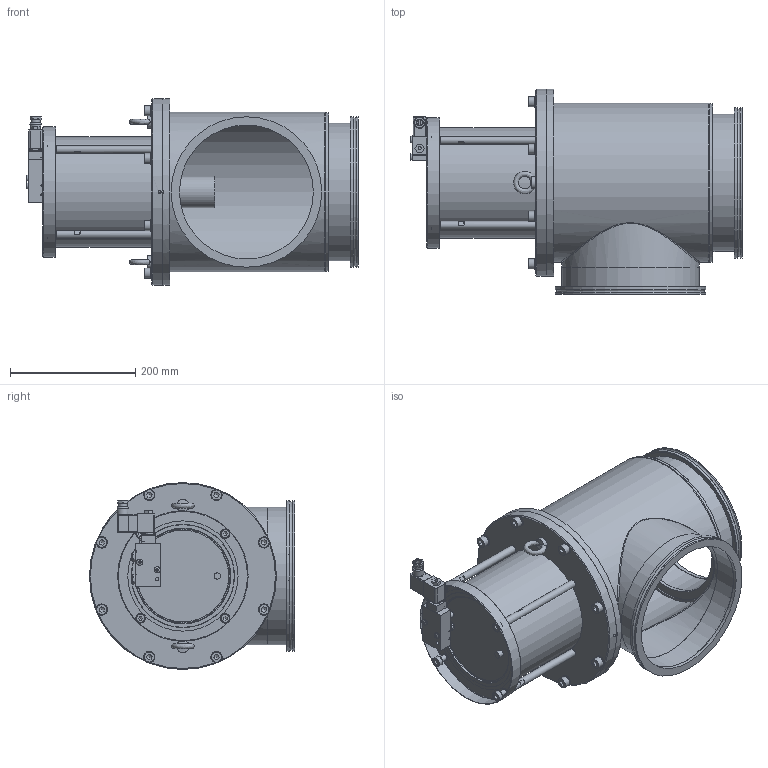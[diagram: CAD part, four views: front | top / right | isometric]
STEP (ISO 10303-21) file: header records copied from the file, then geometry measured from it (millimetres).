
FILE_DESCRIPTION(/* description */ (''),/* implementation_level */ '2;1');
FILE_NAME(/* name */ '1080236739_203.stp',/* time_stamp */ '2019-04-08T07:40:46+02:00',/* author */ (''),/* organization */ (''),/* preprocessor_version */ 'ST-DEVELOPER v16',/* originating_system */ 'SIEMENS PLM Software NX 11.0',/* authorisation */ '');
FILE_SCHEMA (('AP203_CONFIGURATION_CONTROLLED_3D_DESIGN_OF_MECHANICAL_PARTS_AND_ASSEMBLIES_MIM_LF { 1 0 10303 403 2 1 2}'));
Length unit declared in the file: millimetre
Products named in the file (27): 467863; 467864; n-7501-502_1; n-7501-502_2; 524275; 498864; 484239; 498875; 487799; 487825; 366217; n-6024-562; n-7100-016_4; 439305; 439333; 714792; n-6134-410; 218204.1; 224833.1; 377229; n-6033-003.1; n-8501-300_MODELNX-ARRAGMNTArrangement 1; n-7501-502_NX-ARRAGMNT0Â°; 80993-r1_MODELNX-ARRAGMNT0_Grad; 487828; 487835_MODEL; 791339
Assembly tree (53 placements, depth 4):
  791339
    n-6033-003.1  x2
    377229  x4
    224833.1  x4
    218204.1  x8
    n-6134-410  x8
    487835_MODEL
      487828
        487825
        487799
        498875
        484239
        498864
        524275  x2
    80993-r1_MODELNX-ARRAGMNT0_Grad
      n-7100-016_4  x2
      n-6024-562  x2
      n-7501-502_NX-ARRAGMNT0Â°
        n-7501-502_2
        n-7501-502_1
        n-6024-562  x2
      366217  x2
      n-8501-300_MODELNX-ARRAGMNTArrangement 1
        467864
        467863
    714792
    439333
    439305
Bounding box: 529.54 x 327 x 298 mm (x, y, z)
Volume: 4103093.2 mm3; surface area: 1231800.7 mm2
Topology: 72 solids, 72 shells, 1071 faces, 2373 edges, 1538 vertices
Faces by surface type: plane 614, cylinder 268, cone 89, torus 46, extrusion 32, sphere 12, bspline 10
Full cylindrical faces by diameter (mm): 2.7 x1, 3 x1, 4 x2, 4.2 x2, 4.4 x2, 4.9 x1, 5 x5, 5.5 x3, 6 x2, 6.5 x2, 6.66 x4, 6.7 x4, 6.8 x6, 7.7 x4, 7.78 x1, 8 x10, 8.36 x8, 8.4 x8, 8.5 x12, 8.566 x2, 9 x5, 9.728 x5, 10 x25, 10.15 x5, 10.3 x1, 10.5 x8, 11 x8, 12 x4, 13 x4, 13.85 x2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
Entity records: 27302 total; most frequent: CARTESIAN_POINT 6826, DIRECTION 2955, ORIENTED_EDGE 2724, EDGE_CURVE 1362, AXIS2_PLACEMENT_3D 1193, EDGE_LOOP 1069, VERTEX_POINT 1006, ADVANCED_FACE 699
